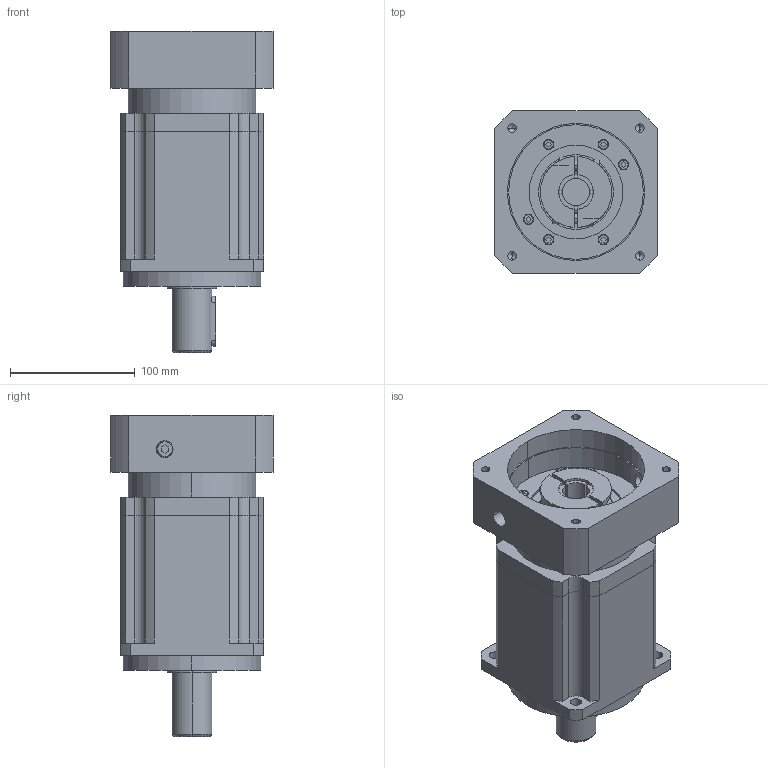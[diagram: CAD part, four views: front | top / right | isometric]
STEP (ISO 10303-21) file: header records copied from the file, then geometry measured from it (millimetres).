
FILE_DESCRIPTION (( 'STEP AP203' ), '1' );
FILE_NAME ('WAB115-L2湮諉湮俋倛芞(22-67-110-145-M8).STEP', '2019-01-07T06:59:59', ( 'wanshsin' ), ( 'Microsoft' ), 'SwSTEP 2.0', 'SolidWorks 2016', '' );
FILE_SCHEMA (( 'CONFIG_CONTROL_DESIGN' ));
Length unit declared in the file: millimetre
Products named in the file (1): WAB115-L2湮諉湮俋倛芞(22-67-110-145-M8)
Bounding box: 130 x 130 x 257.5 mm (x, y, z)
Volume: 2217540.8 mm3; surface area: 194112.1 mm2
Topology: 2 solids, 2 shells, 316 faces, 807 edges, 514 vertices
Faces by surface type: plane 155, cylinder 129, torus 18, cone 14
Entity records: 10135 total; most frequent: CARTESIAN_POINT 2166, DIRECTION 1722, ORIENTED_EDGE 1594, EDGE_CURVE 797, AXIS2_PLACEMENT_3D 630, VERTEX_POINT 514, VECTOR 462, LINE 462
